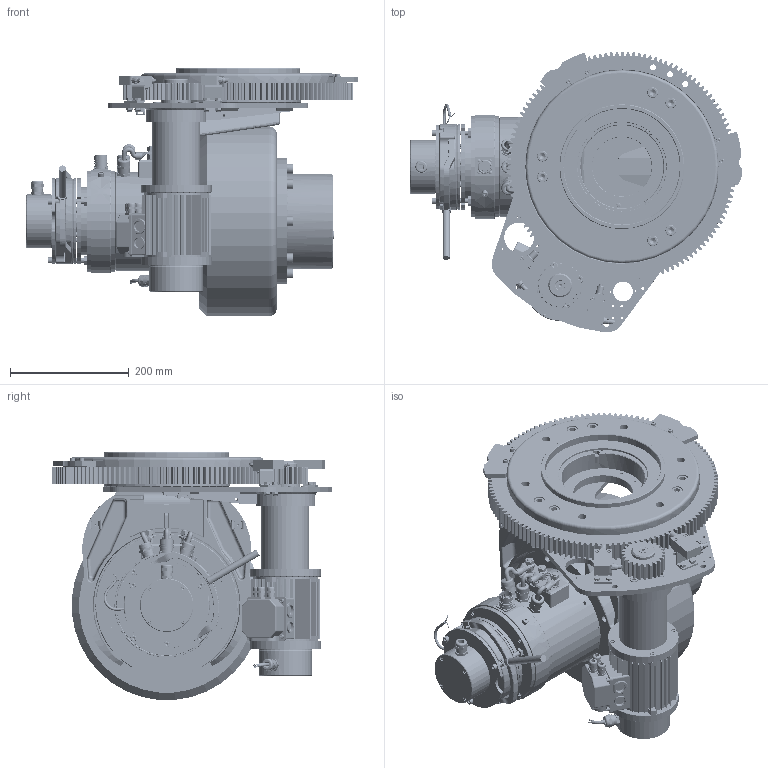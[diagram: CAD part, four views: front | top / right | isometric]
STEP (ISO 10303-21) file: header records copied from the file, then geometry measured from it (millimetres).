
FILE_DESCRIPTION(/* description */ (''),/* implementation_level */ '2;1');
FILE_NAME(/* name */ 'Z:\SITO WEB 2023\Motoruote\Orizzontali sterzanti\MR260B320FMS\MR260B320FMS PMAC + PMAC\MR260B320FMS-BL.stp',/* time_stamp */ '2023-08-03T16:49:27+02:00',/* author */ ('cad3'),/* organization */ (''),/* preprocessor_version */ 'ST-DEVELOPER v18.1',/* originating_system */ 'Autodesk Inventor 2022',/* authorisation */ '');
FILE_SCHEMA (('AUTOMOTIVE_DESIGN { 1 0 10303 214 3 1 1 }'));
Products named in the file (1): MR260B320FMS-BL
Bounding box: 558.46 x 472.13 x 416.89 mm (x, y, z)
Volume: 18404738.8 mm3; surface area: 2607370.9 mm2
Topology: 23 solids, 152 shells, 17938 faces, 46855 edges, 30614 vertices
Faces by surface type: plane 13253, cylinder 2769, cone 828, torus 736, bspline 301, sphere 51
Full cylindrical faces by diameter (mm): 0.9 x12, 1 x2, 2 x1, 2.459 x7, 2.5 x2, 2.9 x8, 3 x4, 3.2 x4, 3.242 x23, 3.3 x2, 4 x28, 4.134 x23, 4.2 x1, 4.3 x4, 4.5 x30, 4.8 x5, 4.917 x20, 5 x30, 5.1 x3, 5.35 x6, 5.5 x22, 5.9 x4, 6 x48, 6.3 x2, 6.5 x39, 6.647 x19, 7 x17, 7.188 x4, 7.5 x14, 7.8 x15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
Entity records: 592326 total; most frequent: CARTESIAN_POINT 125732, DIRECTION 93802, ORIENTED_EDGE 93374, EDGE_CURVE 46687, AXIS2_PLACEMENT_3D 32619, VERTEX_POINT 30686, LINE 28564, VECTOR 28564
